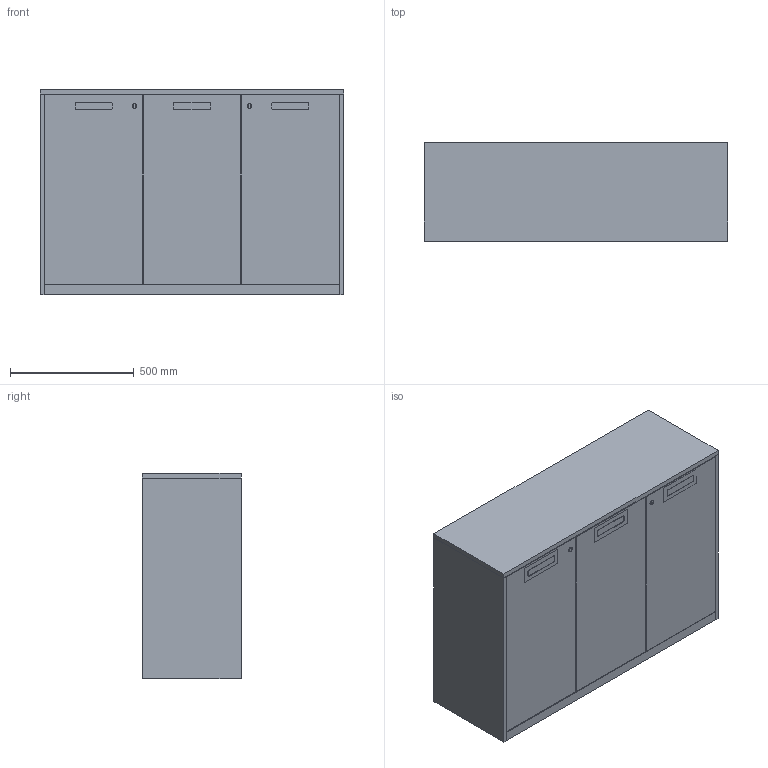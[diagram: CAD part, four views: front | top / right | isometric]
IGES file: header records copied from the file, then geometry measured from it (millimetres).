
Start section: Comment
Global section: file name: SB-H2-3.igs; native system:  By UGS Corp.; preprocessor: XPlus GENERIC/IGES 3.0; author: Author; organization: Title; date: 20170209.122841; units: inch
Bounding box: 1226 x 402 x 832.01 mm (x, y, z)
Surface area: 6130219.5 mm2 (no closed solid volume)
Topology: 0 solids, 0 shells, 99 faces, 468 edges, 468 vertices
Faces by surface type: bspline 99
